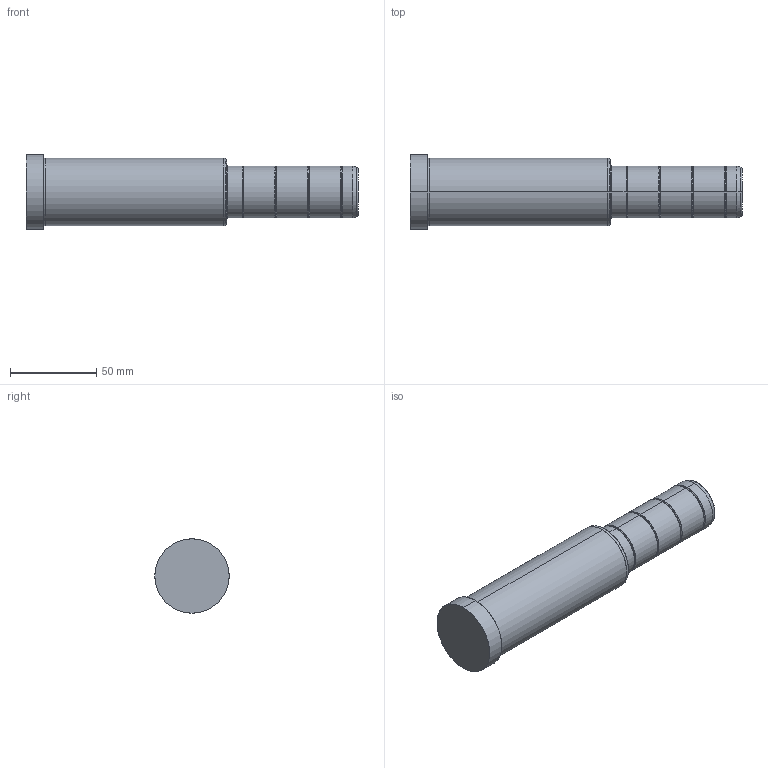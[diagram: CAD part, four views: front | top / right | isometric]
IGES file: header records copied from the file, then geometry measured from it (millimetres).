
Start section: SolidWorks IGES file using analytic representation for surfaces
Global section: file name: C:\Documents and Settings\kalite-mail\Desktop\IGS\D02\30\D02 - 30x116x76.IGS; native system: SolidWorks 2008; preprocessor: SolidWorks 2008; author: kalite-mail; date: 080617.094428; units: millimetre
Bounding box: 192 x 43 x 43 mm (x, y, z)
Surface area: 24468.7 mm2 (no closed solid volume)
Topology: 0 solids, 0 shells, 48 faces, 776 edges, 776 vertices
Faces by surface type: bspline 26, revolution 22
